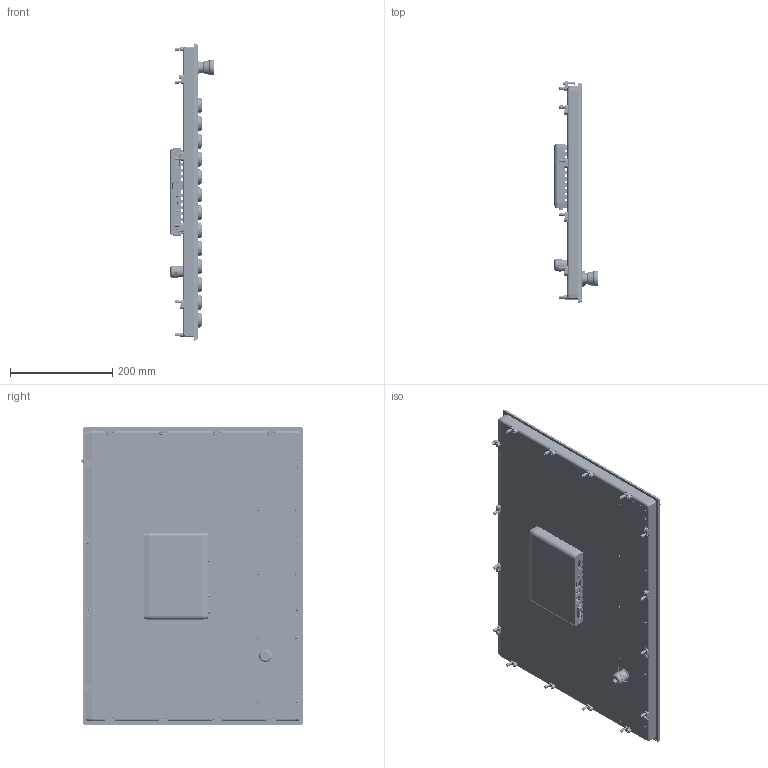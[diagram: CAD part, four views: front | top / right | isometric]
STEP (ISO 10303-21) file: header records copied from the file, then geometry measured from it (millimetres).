
FILE_DESCRIPTION((''),'2;1');
FILE_NAME('C:\_Vault-Workspace\CAD-Daten\Projekte\Projekte_serie\CP\CP29\CP2924\CP2924-G007_Darstellung.stp','2013-09-17T08:43:01',('JenniferF'),(''),'Autodesk Inventor 2013','Autodesk Inventor 2013','');
FILE_SCHEMA(('AUTOMOTIVE_DESIGN { 1 0 10303 214 1 1 1 1 }'));
Length unit declared in the file: millimetre
Products named in the file (1): CP2924-G007_Darstellung
Bounding box: 86.05 x 433.1 x 582 mm (x, y, z)
Volume: 1968023.4 mm3; surface area: 1576107.7 mm2
Topology: 17 solids, 19 shells, 6533 faces, 17527 edges, 11483 vertices
Faces by surface type: plane 3688, cylinder 1885, cone 515, bspline 220, torus 199, sphere 26
Full cylindrical faces by diameter (mm): 1.567 x2, 2.459 x47, 2.693 x12, 3 x14, 3.2 x2, 3.242 x2, 3.4 x13, 4.134 x2, 4.4 x16, 4.917 x16, 5.4 x11, 5.5 x23, 6 x17, 6.03 x1, 7.5 x16, 10 x1, 18.16 x1, 20 x1, 21.5 x1, 22 x18, 22.2 x1, 22.55 x1, 22.7 x13, 22.8 x1, 23.028 x13, 23.52 x1, 23.7 x13, 23.98 x1, 24.8 x13, 26.7 x13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
Entity records: 211711 total; most frequent: CARTESIAN_POINT 47141, ORIENTED_EDGE 32806, DIRECTION 32057, EDGE_CURVE 16403, VERTEX_POINT 11112, AXIS2_PLACEMENT_3D 11095, VECTOR 9867, LINE 9867
